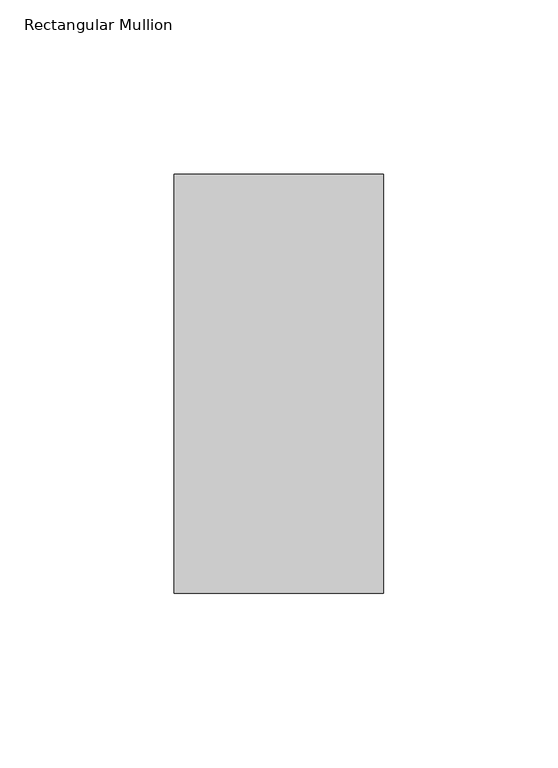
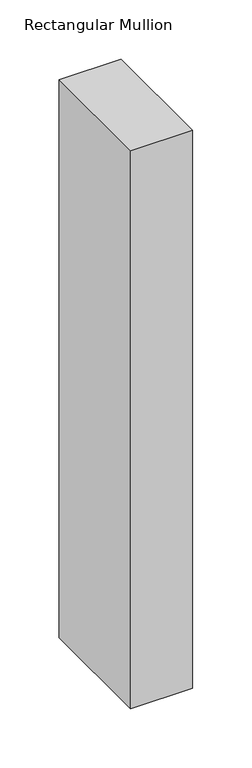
"""IFC4 building model written with IfcOpenShell, lengths in millimetres: member geometry, Rectangular Mullion : Terça."""

from ifc_helpers import new_model, si_unit, frame, origin, place, context, project, spatial, polyline, outline, extrude, source, transform, mapped, element, save


def rectangular_mullion_4162b89b(model_context):
    return source(origin(), model_context, "Body", "SweptSolid", [
        extrude(outline(polyline([(-60.0, -120.0), (-60.0, 0.0), (0.0, 0.0), (0.0, -120.0), (-60.0, -120.0)])), frame((0.0, 0.0, -572.0547567), z_axis=(0.0, 0.0, 1.0), x_axis=(1.0, 0.0, 0.0)), (0.0, 0.0, 1.0), 572.0547567),
    ])


if __name__ == "__main__":
    model = new_model("IFC4")
    model_context = context("Model", 3, world=origin())
    ifc_project = project(units=[si_unit("LENGTHUNIT", "METRE", prefix="MILLI")], contexts=[model_context])
    site = spatial("IfcSite", under=ifc_project)
    building = spatial("IfcBuilding", under=site)
    placement = place(None, origin())
    rectangular_mullion_shape = rectangular_mullion_4162b89b(model_context)
    element("IfcMember", 1, ObjectType="Rectangular Mullion : Terça", at=placement, inside=building, context=model_context, shape_type="MappedRepresentation", body=[
        mapped(rectangular_mullion_shape, transform((0.0, 0.0, 0.0), x_axis=(1.0, 0.0, 0.0), y_axis=(0.0, 1.0, 0.0), z_axis=(0.0, 0.0, 1.0))),
    ])
    save(model, "model.ifc")
